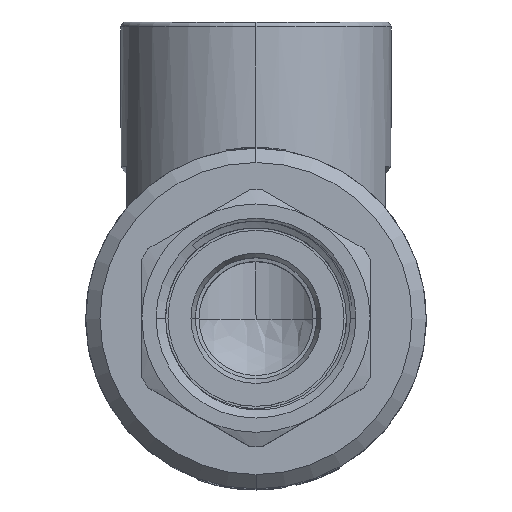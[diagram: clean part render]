
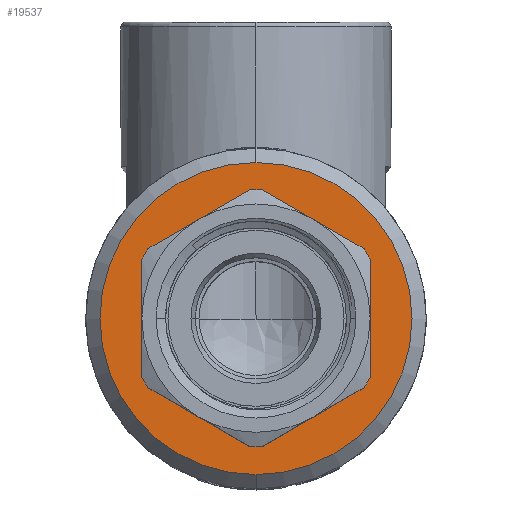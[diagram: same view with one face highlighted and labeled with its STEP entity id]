
A CAD part, top view. The second image highlights one B-rep face of the part: STEP entity #19537.
In plain terms, the highlighted planar face has unit normal (0, 0, 1) as drawn and (0, 0, -1) by its records, which use the part's own axes.
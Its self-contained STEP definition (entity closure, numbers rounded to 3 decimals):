
#80 = CIRCLE ( 'NONE', #20900, 8.25 ) ;
#1993 = FACE_OUTER_BOUND ( 'NONE', #2261, .T. ) ;
#2261 = EDGE_LOOP ( 'NONE', ( #23013, #8030 ) ) ;
#2641 = EDGE_CURVE ( 'NONE', #18847, #18891, #21829, .T. ) ;
#3587 = CIRCLE ( 'NONE', #18725, 16.4 ) ;
#3604 = VERTEX_POINT ( 'NONE', #19058 ) ;
#3669 = CARTESIAN_POINT ( 'NONE',  ( 0., 8.25, -30.55 ) ) ;
#5403 = DIRECTION ( 'NONE',  ( 0., 0., -1. ) ) ;
#5732 = PLANE ( 'NONE',  #6139 ) ;
#5882 = EDGE_CURVE ( 'NONE', #9205, #3604, #3587, .T. ) ;
#5883 = EDGE_CURVE ( 'NONE', #3604, #9205, #17792, .T. ) ;
#5961 = DIRECTION ( 'NONE',  ( 0., 0., 1. ) ) ;
#6139 = AXIS2_PLACEMENT_3D ( 'NONE', #7789, #5961, #13067 ) ;
#6686 = DIRECTION ( 'NONE',  ( 0., 0., -1. ) ) ;
#6993 = CARTESIAN_POINT ( 'NONE',  ( 0., 0., -30.55 ) ) ;
#7016 = CARTESIAN_POINT ( 'NONE',  ( 0., 0., -30.55 ) ) ;
#7080 = DIRECTION ( 'NONE',  ( 0., 0., -1. ) ) ;
#7789 = CARTESIAN_POINT ( 'NONE',  ( 0., 0., -30.55 ) ) ;
#8030 = ORIENTED_EDGE ( 'NONE', *, *, #5882, .T. ) ;
#8233 = FACE_BOUND ( 'NONE', #22762, .T. ) ;
#8307 = EDGE_CURVE ( 'NONE', #18891, #18847, #80, .T. ) ;
#9205 = VERTEX_POINT ( 'NONE', #14459 ) ;
#10309 = DIRECTION ( 'NONE',  ( 1., 0., 0. ) ) ;
#10612 = DIRECTION ( 'NONE',  ( 1., 0., 0. ) ) ;
#10687 = DIRECTION ( 'NONE',  ( 0., 0., -1. ) ) ;
#11267 = AXIS2_PLACEMENT_3D ( 'NONE', #6993, #10687, #12515 ) ;
#12515 = DIRECTION ( 'NONE',  ( 1., 0., 0. ) ) ;
#12636 = CARTESIAN_POINT ( 'NONE',  ( 0., -8.25, -30.55 ) ) ;
#13067 = DIRECTION ( 'NONE',  ( 1., 0., 0. ) ) ;
#14459 = CARTESIAN_POINT ( 'NONE',  ( -16.4, 0., -30.55 ) ) ;
#15055 = ORIENTED_EDGE ( 'NONE', *, *, #2641, .F. ) ;
#17792 = CIRCLE ( 'NONE', #11267, 16.4 ) ;
#18013 = CARTESIAN_POINT ( 'NONE',  ( 0., 0., -30.55 ) ) ;
#18725 = AXIS2_PLACEMENT_3D ( 'NONE', #18013, #5403, #10612 ) ;
#18748 = ORIENTED_EDGE ( 'NONE', *, *, #8307, .F. ) ;
#18847 = VERTEX_POINT ( 'NONE', #12636 ) ;
#18891 = VERTEX_POINT ( 'NONE', #3669 ) ;
#19058 = CARTESIAN_POINT ( 'NONE',  ( 16.4, 0., -30.55 ) ) ;
#19537 = ADVANCED_FACE ( 'NONE', ( #8233, #1993 ), #5732, .F. ) ;
#19790 = DIRECTION ( 'NONE',  ( 1., 0., 0. ) ) ;
#20244 = AXIS2_PLACEMENT_3D ( 'NONE', #7016, #7080, #19790 ) ;
#20900 = AXIS2_PLACEMENT_3D ( 'NONE', #22998, #6686, #10309 ) ;
#21829 = CIRCLE ( 'NONE', #20244, 8.25 ) ;
#22762 = EDGE_LOOP ( 'NONE', ( #15055, #18748 ) ) ;
#22998 = CARTESIAN_POINT ( 'NONE',  ( 0., 0., -30.55 ) ) ;
#23013 = ORIENTED_EDGE ( 'NONE', *, *, #5883, .T. ) ;
